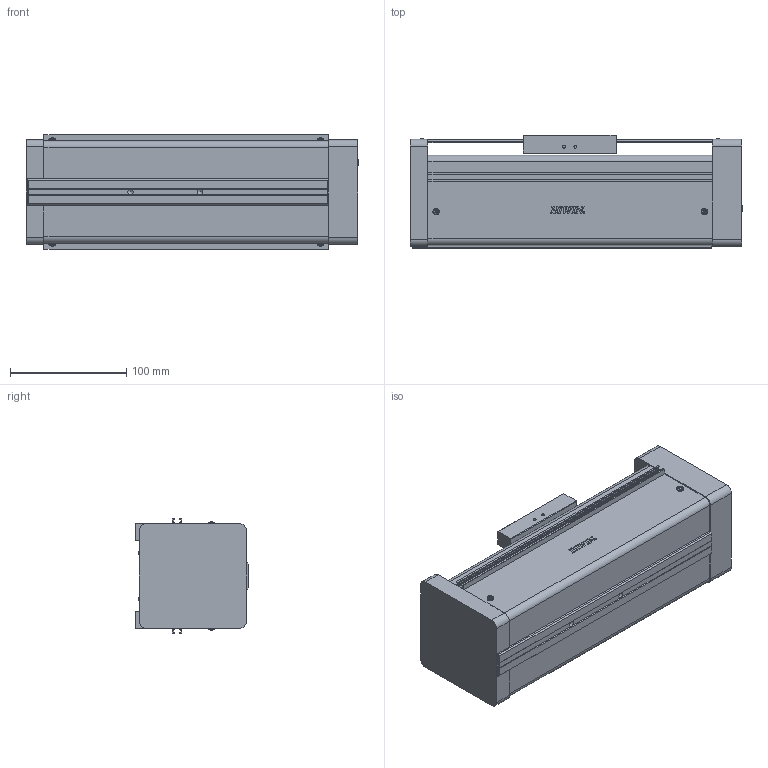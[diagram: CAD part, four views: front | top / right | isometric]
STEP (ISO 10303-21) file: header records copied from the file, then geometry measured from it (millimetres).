
FILE_DESCRIPTION(/* description */ (''),/* implementation_level */ '2;1');
FILE_NAME(/* name */ 'D:\混合母檔20191031\混和母檔\混和母檔\bin\Debug\Download\3D\KE9010C-50AF0\KE9010C-50AF0.stp',/* time_stamp */ '2019-11-04T14:20:38+08:00',/* author */ ('user'),/* organization */ (''),/* preprocessor_version */ 'ST-DEVELOPER v16.13',/* originating_system */ 'Autodesk Inventor 2018',/* authorisation */ '');
FILE_SCHEMA (('AUTOMOTIVE_DESIGN { 1 0 10303 214 3 1 1 }'));
Length unit declared in the file: millimetre
Products named in the file (3): KE9010C-50AF0; KE90-F0-BP; KE90-SL
Assembly tree (2 placements, depth 2):
  KE9010C-50AF0
    KE90-F0-BP
    KE90-SL
Bounding box: 286 x 98 x 98.4 mm (x, y, z)
Volume: 1989870.2 mm3; surface area: 227528 mm2
Topology: 3 solids, 22 shells, 865 faces, 2292 edges, 1514 vertices
Faces by surface type: plane 494, bspline 136, cone 112, cylinder 75, torus 40, sphere 8
Full cylindrical faces by diameter (mm): 2.5 x16, 3 x2, 3.3 x4, 4.2 x4, 4.5 x6, 4.917 x2, 5 x9, 8 x7, 46 x1, 50 x1
Entity records: 30368 total; most frequent: CARTESIAN_POINT 9532, ORIENTED_EDGE 4342, DIRECTION 3805, EDGE_CURVE 2171, VERTEX_POINT 1481, AXIS2_PLACEMENT_3D 1280, LINE 1245, VECTOR 1245
